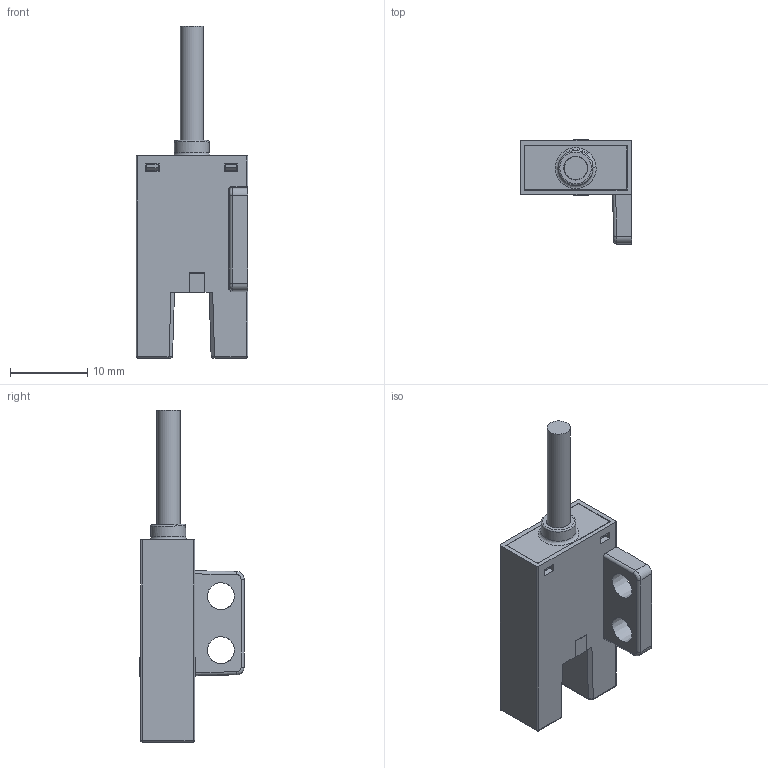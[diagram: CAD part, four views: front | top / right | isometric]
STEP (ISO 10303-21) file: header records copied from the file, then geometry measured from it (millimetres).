
FILE_DESCRIPTION(/* description */ (''),/* implementation_level */ '2;1');
FILE_NAME(/* name */ '302-出线.stp',/* time_stamp */ '2016-12-22T15:37:58+08:00',/* author */ (''),/* organization */ (''),/* preprocessor_version */ 'ST-DEVELOPER v16',/* originating_system */ 'SIEMENS PLM Software NX 10.0',/* authorisation */ '');
FILE_SCHEMA (('AP203_CONFIGURATION_CONTROLLED_3D_DESIGN_OF_MECHANICAL_PARTS_AND_ASSEMBLIES_MIM_LF { 1 0 10303 403 2 1 2}'));
Length unit declared in the file: millimetre
Products named in the file (1): Gavi0C983A09katj
Bounding box: 14.5 x 13.5 x 43.03 mm (x, y, z)
Volume: 1552.9 mm3; surface area: 4202.8 mm2
Topology: 10 solids, 10 shells, 396 faces, 1055 edges, 692 vertices
Faces by surface type: plane 316, cylinder 61, sphere 6, torus 6, bspline 4, cone 3
Full cylindrical faces by diameter (mm): 0.7 x2, 1 x2, 1.2 x2, 1.5 x2, 1.789 x1, 1.8 x3, 3 x2, 3.6 x1, 4.5 x1, 5 x1
Entity records: 12433 total; most frequent: CARTESIAN_POINT 2590, ORIENTED_EDGE 2038, DIRECTION 1875, EDGE_CURVE 1019, LINE 797, VECTOR 797, VERTEX_POINT 687, AXIS2_PLACEMENT_3D 539
